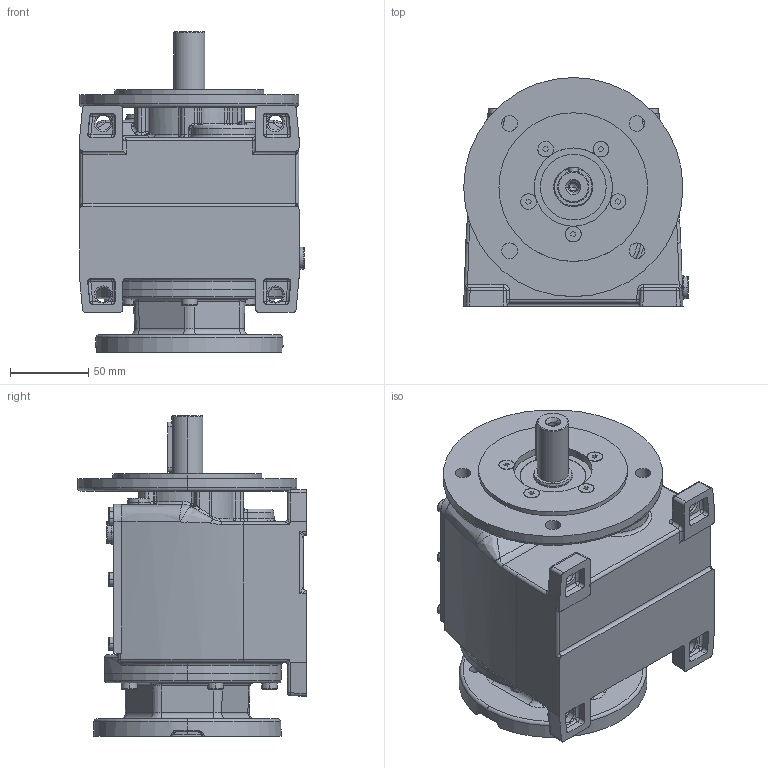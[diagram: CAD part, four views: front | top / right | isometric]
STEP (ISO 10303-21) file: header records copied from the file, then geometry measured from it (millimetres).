
FILE_DESCRIPTION (( 'STEP AP214' ), '1' );
FILE_NAME ('MTC22A-80-100+VP.STEP', '2006-05-03T09:10:52', ( '' ), ( '' ), 'SwSTEP 2.0', 'SolidWorks 2004146', '' );
FILE_SCHEMA (( 'AUTOMOTIVE_DESIGN' ));
Length unit declared in the file: millimetre
Products named in the file (6): D6912_Šroub DIN 6912 - M6x20; Skrin MTC2_A_MTC22_AP80; Výst_pøíruba MTC_A_MTC2_A; pøíruba d55 MRT60a_pøíruba 80-100-120; D7991_Šroub DIN 7991 - M5 x 16; MTC22A-80-100+VP
Assembly tree (14 placements, depth 2):
  MTC22A-80-100+VP
    D7991_Šroub DIN 7991 - M5 x 16  x5
    pøíruba d55 MRT60a_pøíruba 80-100-120
    D6912_Šroub DIN 6912 - M6x20  x6
    Výst_pøíruba MTC_A_MTC2_A
    Skrin MTC2_A_MTC22_AP80
Bounding box: 143.57 x 146 x 204.5 mm (x, y, z)
Volume: 2023589.2 mm3; surface area: 185257.1 mm2
Topology: 14 solids, 14 shells, 1549 faces, 3615 edges, 2119 vertices
Faces by surface type: plane 415, cylinder 386, torus 378, cone 244, bspline 100, sphere 26
Entity records: 92541 total; most frequent: CARTESIAN_POINT 59046, DIRECTION 6723, ORIENTED_EDGE 6154, EDGE_CURVE 3077, AXIS2_PLACEMENT_3D 2831, VERTEX_POINT 1865, CIRCLE 1626, EDGE_LOOP 1404
